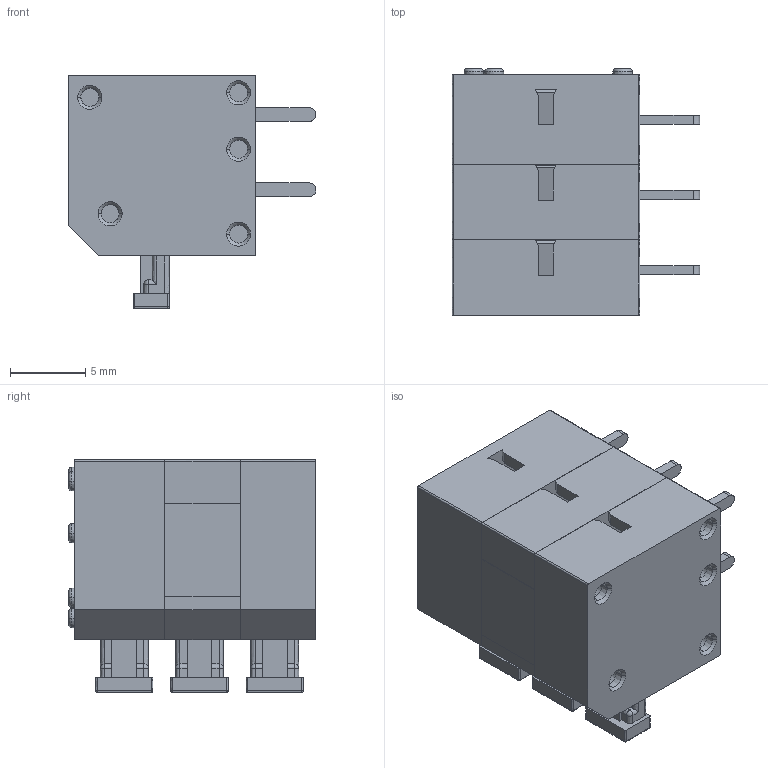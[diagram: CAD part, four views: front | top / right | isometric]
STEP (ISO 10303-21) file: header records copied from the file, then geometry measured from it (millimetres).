
FILE_DESCRIPTION((''),'2;1');
FILE_NAME('3','2015-12-11T',('exploitation09'),(''),'PRO/ENGINEER BY PARAMETRIC TECHNOLOGY CORPORATION, 2009440','PRO/ENGINEER BY PARAMETRIC TECHNOLOGY CORPORATION, 2009440','');
FILE_SCHEMA(('CONFIG_CONTROL_DESIGN'));
Products named in the file (1): 3
Bounding box: 16.5 x 16.4 x 15.5 mm (x, y, z)
Surface area: 4782.6 mm2 (no closed solid volume)
Topology: 0 solids, 0 shells, 1120 faces, 6196 edges, 6110 vertices
Faces by surface type: bspline 1026, torus 66, sphere 28
Entity records: 95136 total; most frequent: CARTESIAN_POINT 38998, DIRECTION 9306, TRIMMED_CURVE 8040, VECTOR 6962, LINE 6962, DEFINITIONAL_REPRESENTATION 6044, PCURVE 6044, COMPOSITE_CURVE_SEGMENT 6044
